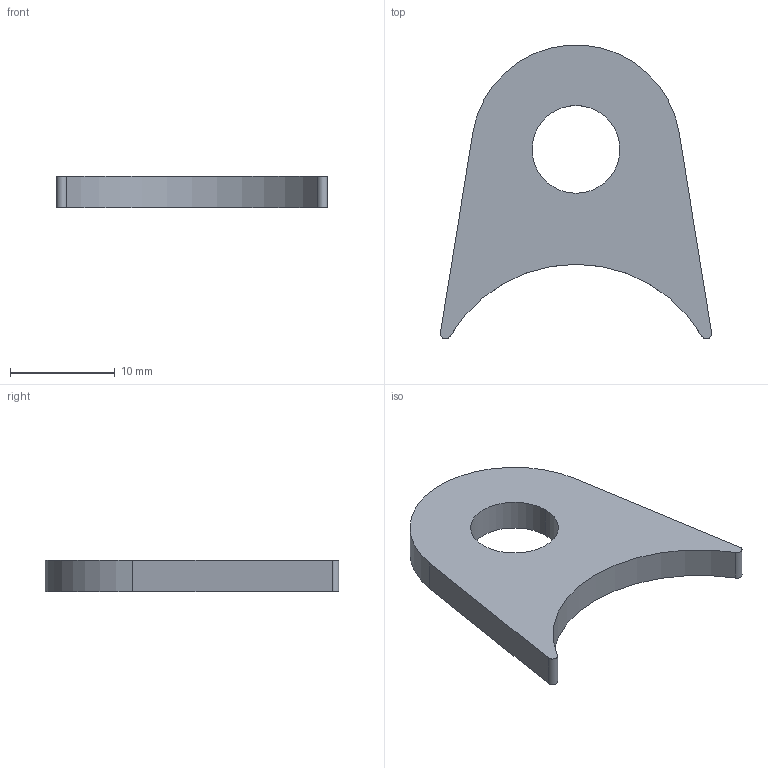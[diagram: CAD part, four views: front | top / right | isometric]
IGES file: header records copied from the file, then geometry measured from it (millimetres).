
Start section: START RECORD GO HERE.
Global section: file name: 20M_AE_22002 (chape).igs; native system: IBM CATIA IGES - CATIA Version 5 Release 19 ; preprocessor: CATIA Version 5 Release 19 ; author: mik75; organization: LAPTOP-SUH344G9; date: 20200115.194824; units: millimetre
Bounding box: 25.96 x 28.08 x 3 mm (x, y, z)
Surface area: 1172.8 mm2 (no closed solid volume)
Topology: 0 solids, 0 shells, 10 faces, 48 edges, 48 vertices
Faces by surface type: revolution 6, plane 4
